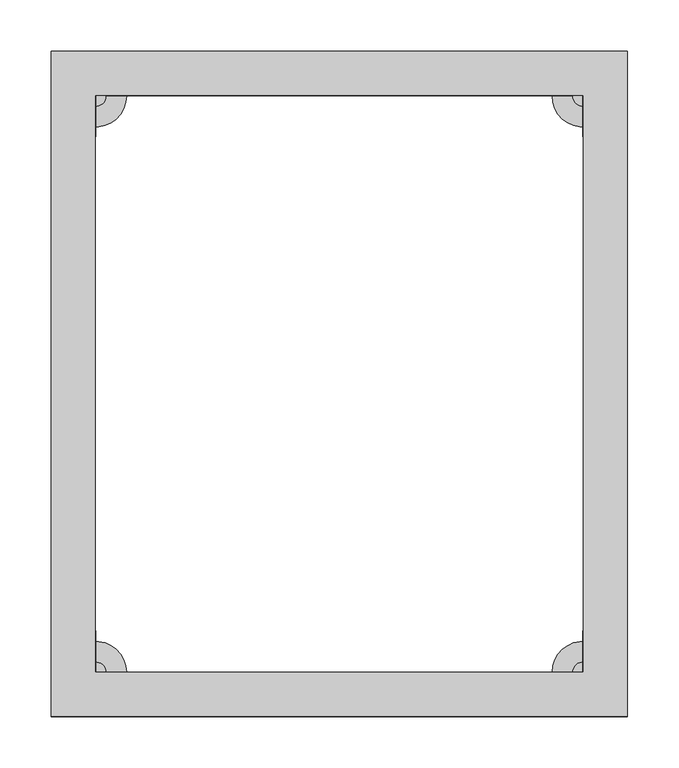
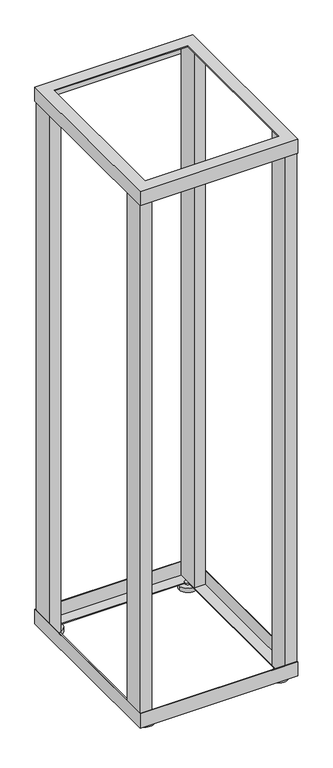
"""IFC4 building model written with IfcOpenShell, lengths in millimetres: proxy geometry, Шкафы ITK серия F : LF05-42U68-2R."""

from ifc_helpers import new_model, si_unit, point, frame, frame_2d, origin, origin_with_axes, place, context, project, spatial, polyline, circle_curve, trimmed, segment, composite_curve, outline, extrude, faceted_brep, source, transform, mapped, element, save


def electrical_fixtures_5be799dd(model_context):
    return source(origin(), model_context, "Body", "SolidModel", [
        extrude(outline(composite_curve([segment(trimmed(circle_curve(frame_2d((-237.0, 280.0)), 10.0), [point((-227.0, 280.0))], [point((-247.0, 280.0))], False, "CARTESIAN"), True, "CONTINUOUS"), segment(trimmed(circle_curve(frame_2d((-237.0, 280.0)), 10.0), [point((-247.0, 280.0))], [point((-227.0, 280.0))], False, "CARTESIAN"), True, "CONTINUOUS")], self_intersect=False)), frame((0.0, 0.0, 15.0), z_axis=(0.0, 0.0, 1.0), x_axis=(1.0, 0.0, 0.0)), (0.0, 0.0, 1.0), 5.0),
        extrude(outline(composite_curve([segment(trimmed(circle_curve(frame_2d((237.0, 280.0)), 10.0), [point((247.0, 280.0))], [point((227.0, 280.0))], False, "CARTESIAN"), True, "CONTINUOUS"), segment(trimmed(circle_curve(frame_2d((237.0, 280.0)), 10.0), [point((227.0, 280.0))], [point((247.0, 280.0))], False, "CARTESIAN"), True, "CONTINUOUS")], self_intersect=False)), frame((0.0, 0.0, 15.0), z_axis=(0.0, 0.0, 1.0), x_axis=(1.0, 0.0, 0.0)), (0.0, 0.0, 1.0), 5.0),
        extrude(outline(composite_curve([segment(trimmed(circle_curve(frame_2d((-237.0, -280.0)), 10.0), [point((-227.0, -280.0))], [point((-247.0, -280.0))], False, "CARTESIAN"), True, "CONTINUOUS"), segment(trimmed(circle_curve(frame_2d((-237.0, -280.0)), 10.0), [point((-247.0, -280.0))], [point((-227.0, -280.0))], False, "CARTESIAN"), True, "CONTINUOUS")], self_intersect=False)), frame((0.0, 0.0, 15.0), z_axis=(0.0, 0.0, 1.0), x_axis=(1.0, 0.0, 0.0)), (0.0, 0.0, 1.0), 5.0),
        extrude(outline(composite_curve([segment(trimmed(circle_curve(frame_2d((237.0, -280.0)), 10.0), [point((247.0, -280.0))], [point((227.0, -280.0))], False, "CARTESIAN"), True, "CONTINUOUS"), segment(trimmed(circle_curve(frame_2d((237.0, -280.0)), 10.0), [point((227.0, -280.0))], [point((247.0, -280.0))], False, "CARTESIAN"), True, "CONTINUOUS")], self_intersect=False)), frame((0.0, 0.0, 15.0), z_axis=(0.0, 0.0, 1.0), x_axis=(1.0, 0.0, 0.0)), (0.0, 0.0, 1.0), 5.0),
        extrude(outline(composite_curve([segment(trimmed(circle_curve(frame_2d((-237.0, 280.0)), 30.0), [point((-207.0, 280.0))], [point((-267.0, 280.0))], False, "CARTESIAN"), True, "CONTINUOUS"), segment(trimmed(circle_curve(frame_2d((-237.0, 280.0)), 30.0), [point((-267.0, 280.0))], [point((-207.0, 280.0))], False, "CARTESIAN"), True, "CONTINUOUS")], self_intersect=False)), origin_with_axes(), (0.0, 0.0, 1.0), 15.0),
        extrude(outline(composite_curve([segment(trimmed(circle_curve(frame_2d((237.0, 280.0)), 30.0), [point((267.0, 280.0))], [point((207.0, 280.0))], False, "CARTESIAN"), True, "CONTINUOUS"), segment(trimmed(circle_curve(frame_2d((237.0, 280.0)), 30.0), [point((207.0, 280.0))], [point((267.0, 280.0))], False, "CARTESIAN"), True, "CONTINUOUS")], self_intersect=False)), origin_with_axes(), (0.0, 0.0, 1.0), 15.0),
        extrude(outline(composite_curve([segment(trimmed(circle_curve(frame_2d((-237.0, -280.0)), 30.0), [point((-207.0, -280.0))], [point((-267.0, -280.0))], False, "CARTESIAN"), True, "CONTINUOUS"), segment(trimmed(circle_curve(frame_2d((-237.0, -280.0)), 30.0), [point((-267.0, -280.0))], [point((-207.0, -280.0))], False, "CARTESIAN"), True, "CONTINUOUS")], self_intersect=False)), origin_with_axes(), (0.0, 0.0, 1.0), 15.0),
        extrude(outline(composite_curve([segment(trimmed(circle_curve(frame_2d((237.0, -280.0)), 30.0), [point((267.0, -280.0))], [point((207.0, -280.0))], False, "CARTESIAN"), True, "CONTINUOUS"), segment(trimmed(circle_curve(frame_2d((237.0, -280.0)), 30.0), [point((207.0, -280.0))], [point((267.0, -280.0))], False, "CARTESIAN"), True, "CONTINUOUS")], self_intersect=False)), origin_with_axes(), (0.0, 0.0, 1.0), 15.0),
        faceted_brep([(237.0, 280.0, 2031.0), (237.0, 280.0, 2028.0), (237.0, -280.0, 2028.0), (237.0, -280.0, 2031.0), (280.0, 323.0, 1978.0), (280.0, 323.0, 2031.0), (280.0, -323.0, 2031.0), (280.0, -323.0, 1978.0), (277.0, 320.0, 2028.0), (277.0, 320.0, 1978.0), (277.0, -320.0, 1978.0), (277.0, -320.0, 2028.0), (-237.0, -280.0, 2028.0), (-237.0, -280.0, 2031.0), (-280.0, -323.0, 2031.0), (-280.0, -323.0, 1978.0), (-277.0, -320.0, 1978.0), (-277.0, -320.0, 2028.0), (-237.0, 280.0, 2028.0), (-237.0, 280.0, 2031.0), (-280.0, 323.0, 2031.0), (-280.0, 323.0, 1978.0), (-277.0, 320.0, 1978.0), (-277.0, 320.0, 2028.0)], [[[0, 1, 2, 3]], [[4, 5, 6, 7]], [[8, 9, 10, 11]], [[3, 2, 12, 13]], [[7, 6, 14, 15]], [[11, 10, 16, 17]], [[13, 12, 18, 19]], [[15, 14, 20, 21]], [[17, 16, 22, 23]], [[19, 18, 1, 0]], [[5, 20, 14, 6], [3, 13, 19, 0]], [[21, 20, 5, 4]], [[7, 15, 21, 4], [9, 22, 16, 10]], [[23, 22, 9, 8]], [[11, 17, 23, 8], [1, 18, 12, 2]]]),
        faceted_brep([(280.0, 323.0, 17.0), (280.0, 323.0, 70.0), (280.0, -323.0, 70.0), (280.0, -323.0, 17.0), (237.0, 280.0, 20.0), (237.0, 280.0, 17.0), (237.0, -280.0, 17.0), (237.0, -280.0, 20.0), (277.0, 320.0, 70.0), (277.0, 320.0, 20.0), (277.0, -320.0, 20.0), (277.0, -320.0, 70.0), (-280.0, -323.0, 70.0), (-280.0, -323.0, 17.0), (-237.0, -280.0, 17.0), (-237.0, -280.0, 20.0), (-277.0, -320.0, 20.0), (-277.0, -320.0, 70.0), (-280.0, 323.0, 70.0), (-280.0, 323.0, 17.0), (-237.0, 280.0, 17.0), (-237.0, 280.0, 20.0), (-277.0, 320.0, 20.0), (-277.0, 320.0, 70.0)], [[[0, 1, 2, 3]], [[4, 5, 6, 7]], [[8, 9, 10, 11]], [[3, 2, 12, 13]], [[7, 6, 14, 15]], [[11, 10, 16, 17]], [[13, 12, 18, 19]], [[15, 14, 20, 21]], [[17, 16, 22, 23]], [[1, 18, 12, 2], [11, 17, 23, 8]], [[19, 18, 1, 0]], [[3, 13, 19, 0], [5, 20, 14, 6]], [[21, 20, 5, 4]], [[9, 22, 16, 10], [7, 15, 21, 4]], [[23, 22, 9, 8]]]),
        extrude(outline(polyline([(-237.0, -240.0), (-237.0, -320.0), (-277.0, -320.0), (-277.0, -240.0), (-237.0, -240.0)]), holes=[polyline([(-240.0, -243.0), (-274.0, -243.0), (-274.0, -317.0), (-240.0, -317.0), (-240.0, -243.0)])]), frame((0.0, 0.0, 20.0), z_axis=(0.0, 0.0, 1.0), x_axis=(1.0, 0.0, 0.0)), (0.0, 0.0, 1.0), 2008.0),
        extrude(outline(polyline([(237.0, 240.0), (237.0, 320.0), (277.0, 320.0), (277.0, 240.0), (237.0, 240.0)]), holes=[polyline([(274.0, 243.0), (274.0, 317.0), (240.0, 317.0), (240.0, 243.0), (274.0, 243.0)])]), frame((0.0, 0.0, 20.0), z_axis=(0.0, 0.0, 1.0), x_axis=(1.0, 0.0, 0.0)), (0.0, 0.0, 1.0), 2008.0),
        extrude(outline(polyline([(-237.0, 240.0), (-277.0, 240.0), (-277.0, 320.0), (-237.0, 320.0), (-237.0, 240.0)]), holes=[polyline([(-274.0, 317.0), (-274.0, 243.0), (-240.0, 243.0), (-240.0, 317.0), (-274.0, 317.0)])]), frame((0.0, 0.0, 20.0), z_axis=(0.0, 0.0, 1.0), x_axis=(1.0, 0.0, 0.0)), (0.0, 0.0, 1.0), 2008.0),
        extrude(outline(polyline([(237.0, -240.0), (277.0, -240.0), (277.0, -320.0), (237.0, -320.0), (237.0, -240.0)]), holes=[polyline([(274.0, -317.0), (274.0, -243.0), (240.0, -243.0), (240.0, -317.0), (274.0, -317.0)])]), frame((0.0, 0.0, 20.0), z_axis=(0.0, 0.0, 1.0), x_axis=(1.0, 0.0, 0.0)), (0.0, 0.0, 1.0), 2008.0),
    ])


if __name__ == "__main__":
    model = new_model("IFC4")
    model_context = context("Model", 3, world=origin())
    ifc_project = project(units=[si_unit("LENGTHUNIT", "METRE", prefix="MILLI")], contexts=[model_context])
    site = spatial("IfcSite", under=ifc_project)
    building = spatial("IfcBuilding", under=site)
    placement = place(None, origin())
    electrical_fixtures_shape = electrical_fixtures_5be799dd(model_context)
    element("IfcBuildingElementProxy", 1, Name="Шкафы ITK серия F : LF05-42U68-2R", ObjectType="Шкафы ITK серия F : LF05-42U68-2R", at=placement, inside=building, context=model_context, shape_type="MappedRepresentation", body=[
        mapped(electrical_fixtures_shape, transform((0.0, 0.0, 0.0), x_axis=(1.0, 0.0, 0.0), y_axis=(0.0, 1.0, 0.0), z_axis=(0.0, 0.0, 1.0))),
    ])
    save(model, "model.ifc")
